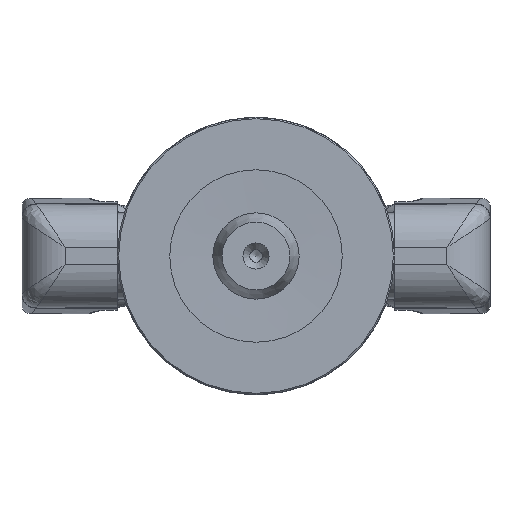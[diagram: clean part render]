
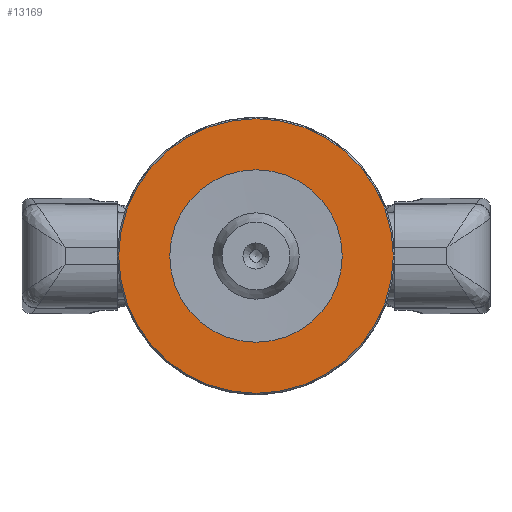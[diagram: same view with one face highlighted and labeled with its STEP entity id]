
A CAD part, front view. The second image highlights one B-rep face of the part: STEP entity #13169.
In plain terms, the highlighted planar face has unit normal (0, -1, 0) as drawn and (0, 0, -1) by its records, which use the part's own axes.
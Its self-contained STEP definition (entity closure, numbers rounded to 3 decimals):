
#269=FACE_BOUND('',#3910,.T.);
#624=CIRCLE('',#14145,22.3);
#626=CIRCLE('',#14149,14.);
#2379=PLANE('',#14148);
#3079=FACE_OUTER_BOUND('',#3909,.T.);
#3909=EDGE_LOOP('',(#11024));
#3910=EDGE_LOOP('',(#11025));
#5858=VERTEX_POINT('',#40562);
#5860=VERTEX_POINT('',#40568);
#7654=EDGE_CURVE('',#5858,#5858,#624,.T.);
#7656=EDGE_CURVE('',#5860,#5860,#626,.T.);
#11024=ORIENTED_EDGE('',*,*,#7654,.F.);
#11025=ORIENTED_EDGE('',*,*,#7656,.F.);
#13169=ADVANCED_FACE('',(#3079,#269),#2379,.F.);
#14145=AXIS2_PLACEMENT_3D('',#40563,#16281,#16282);
#14148=AXIS2_PLACEMENT_3D('',#40567,#16287,#16288);
#14149=AXIS2_PLACEMENT_3D('',#40569,#16289,#16290);
#16281=DIRECTION('center_axis',(0.,0.,1.));
#16282=DIRECTION('ref_axis',(-1.,0.,0.));
#16287=DIRECTION('center_axis',(0.,0.,1.));
#16288=DIRECTION('ref_axis',(1.,0.,0.));
#16289=DIRECTION('center_axis',(0.,0.,-1.));
#16290=DIRECTION('ref_axis',(-1.,0.,0.));
#40562=CARTESIAN_POINT('',(22.3,0.,0.));
#40563=CARTESIAN_POINT('Origin',(0.,0.,0.));
#40567=CARTESIAN_POINT('Origin',(0.,0.,0.));
#40568=CARTESIAN_POINT('',(14.,0.,0.));
#40569=CARTESIAN_POINT('Origin',(0.,0.,0.));
